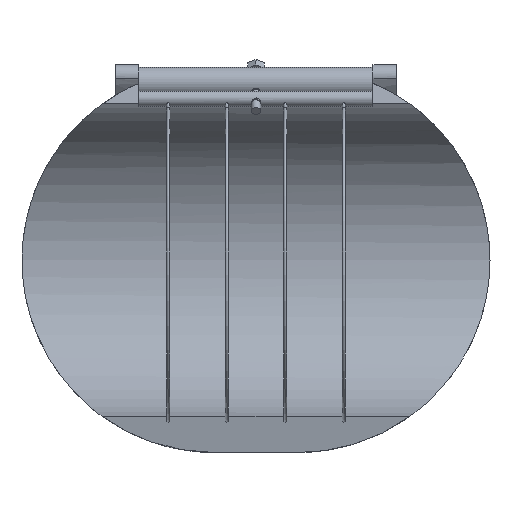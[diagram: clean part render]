
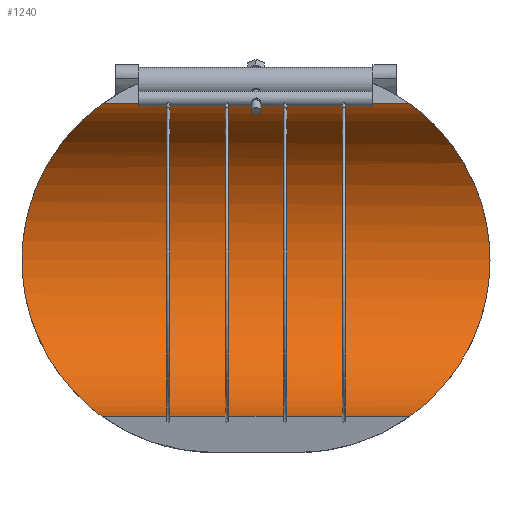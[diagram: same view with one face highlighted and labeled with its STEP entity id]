
A CAD part, front view. The second image highlights one B-rep face of the part: STEP entity #1240.
In plain terms, the highlighted cylindrical face has radius 100 mm (diameter 200 mm), a partial arc.
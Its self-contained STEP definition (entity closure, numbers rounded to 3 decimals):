
#127=FACE_OUTER_BOUND('',#207,.T.);
#207=EDGE_LOOP('',(#1099,#1100,#1101,#1102,#1103,#1104,#1105,#1106,#1107,
#1108));
#258=B_SPLINE_CURVE_WITH_KNOTS('',3,(#2768,#2769,#2770,#2771,#2772,#2773,
#2774,#2775,#2776,#2777,#2778,#2779,#2780,#2781,#2782,#2783,#2784,#2785),
 .UNSPECIFIED.,.F.,.F.,(4,2,2,2,2,2,2,2,4),(34.319,34.624,
36.698,38.771,40.845,42.84,44.835,
46.83,48.825),.UNSPECIFIED.);
#259=B_SPLINE_CURVE_WITH_KNOTS('',3,(#2786,#2787,#2788,#2789,#2790,#2791,
#2792,#2793,#2794,#2795,#2796,#2797,#2798,#2799,#2800,#2801,#2802,#2803),
 .UNSPECIFIED.,.F.,.F.,(4,2,2,2,2,2,2,2,4),(48.825,50.82,
52.815,54.81,56.805,58.879,60.953,
63.027,63.331),.UNSPECIFIED.);
#264=B_SPLINE_CURVE_WITH_KNOTS('',3,(#2915,#2916,#2917,#2918,#2919,#2920,
#2921,#2922,#2923,#2924,#2925,#2926,#2927,#2928,#2929,#2930,#2931,#2932),
 .UNSPECIFIED.,.F.,.F.,(4,2,2,2,2,2,2,2,4),(1.769,2.074,
4.147,6.221,8.295,10.29,12.285,
14.28,16.275),.UNSPECIFIED.);
#265=B_SPLINE_CURVE_WITH_KNOTS('',3,(#2934,#2935,#2936,#2937,#2938,#2939,
#2940,#2941,#2942,#2943,#2944,#2945,#2946,#2947,#2948,#2949,#2950,#2951),
 .UNSPECIFIED.,.F.,.F.,(4,2,2,2,2,2,2,2,4),(16.275,18.27,
20.265,22.26,24.255,26.329,28.403,
30.476,30.781),.UNSPECIFIED.);
#351=LINE('',#2059,#412);
#352=LINE('',#2062,#413);
#353=LINE('',#2065,#414);
#354=LINE('',#2067,#415);
#355=LINE('',#2068,#416);
#399=LINE('',#2993,#460);
#412=VECTOR('',#1456,10.);
#413=VECTOR('',#1459,10.);
#414=VECTOR('',#1462,10.);
#415=VECTOR('',#1465,10.);
#416=VECTOR('',#1466,10.);
#460=VECTOR('',#1714,10.);
#487=VERTEX_POINT('',#2047);
#489=VERTEX_POINT('',#2052);
#491=VERTEX_POINT('',#2056);
#492=VERTEX_POINT('',#2058);
#493=VERTEX_POINT('',#2061);
#494=VERTEX_POINT('',#2064);
#570=VERTEX_POINT('',#2765);
#571=VERTEX_POINT('',#2767);
#576=VERTEX_POINT('',#2914);
#577=VERTEX_POINT('',#2933);
#623=EDGE_CURVE('',#492,#491,#351,.T.);
#625=EDGE_CURVE('',#493,#492,#352,.T.);
#627=EDGE_CURVE('',#494,#493,#353,.T.);
#629=EDGE_CURVE('',#487,#494,#354,.T.);
#630=EDGE_CURVE('',#489,#487,#355,.T.);
#752=EDGE_CURVE('',#570,#571,#258,.T.);
#753=EDGE_CURVE('',#571,#491,#259,.T.);
#758=EDGE_CURVE('',#489,#576,#264,.T.);
#759=EDGE_CURVE('',#576,#577,#265,.T.);
#763=EDGE_CURVE('',#570,#577,#399,.T.);
#1099=ORIENTED_EDGE('',*,*,#758,.F.);
#1100=ORIENTED_EDGE('',*,*,#630,.T.);
#1101=ORIENTED_EDGE('',*,*,#629,.T.);
#1102=ORIENTED_EDGE('',*,*,#627,.T.);
#1103=ORIENTED_EDGE('',*,*,#625,.T.);
#1104=ORIENTED_EDGE('',*,*,#623,.T.);
#1105=ORIENTED_EDGE('',*,*,#753,.F.);
#1106=ORIENTED_EDGE('',*,*,#752,.F.);
#1107=ORIENTED_EDGE('',*,*,#763,.T.);
#1108=ORIENTED_EDGE('',*,*,#759,.F.);
#1181=CYLINDRICAL_SURFACE('',#1391,100.);
#1240=ADVANCED_FACE('',(#127),#1181,.F.);
#1391=AXIS2_PLACEMENT_3D('',#2992,#1712,#1713);
#1456=DIRECTION('',(1.,0.,0.));
#1459=DIRECTION('',(1.,0.,0.));
#1462=DIRECTION('',(1.,0.,0.));
#1465=DIRECTION('',(1.,0.,0.));
#1466=DIRECTION('',(1.,0.,0.));
#1712=DIRECTION('center_axis',(1.,0.,0.));
#1713=DIRECTION('ref_axis',(0.,1.,0.));
#1714=DIRECTION('',(-1.,0.,0.));
#2047=CARTESIAN_POINT('',(-55.313,17.365,-98.481));
#2052=CARTESIAN_POINT('',(-96.968,17.365,-98.481));
#2056=CARTESIAN_POINT('',(96.968,17.365,-98.481));
#2058=CARTESIAN_POINT('',(55.313,17.365,-98.481));
#2059=CARTESIAN_POINT('',(0.,17.365,-98.481));
#2061=CARTESIAN_POINT('',(18.438,17.365,-98.481));
#2062=CARTESIAN_POINT('',(0.,17.365,-98.481));
#2064=CARTESIAN_POINT('',(-18.438,17.365,-98.481));
#2065=CARTESIAN_POINT('',(0.,17.365,-98.481));
#2067=CARTESIAN_POINT('',(0.,17.365,-98.481));
#2068=CARTESIAN_POINT('',(0.,17.365,-98.481));
#2765=CARTESIAN_POINT('',(96.968,17.365,98.481));
#2767=CARTESIAN_POINT('',(147.5,100.,0.));
#2768=CARTESIAN_POINT('Ctrl Pts',(96.968,17.365,98.481));
#2769=CARTESIAN_POINT('Ctrl Pts',(97.207,18.337,98.309));
#2770=CARTESIAN_POINT('Ctrl Pts',(97.464,19.305,98.124));
#2771=CARTESIAN_POINT('Ctrl Pts',(99.597,26.828,96.567));
#2772=CARTESIAN_POINT('Ctrl Pts',(102.223,33.158,94.569));
#2773=CARTESIAN_POINT('Ctrl Pts',(108.192,45.186,89.448));
#2774=CARTESIAN_POINT('Ctrl Pts',(111.532,50.889,86.32));
#2775=CARTESIAN_POINT('Ctrl Pts',(118.243,61.474,79.132));
#2776=CARTESIAN_POINT('Ctrl Pts',(121.612,66.352,75.069));
#2777=CARTESIAN_POINT('Ctrl Pts',(127.753,74.903,66.518));
#2778=CARTESIAN_POINT('Ctrl Pts',(130.77,78.923,61.741));
#2779=CARTESIAN_POINT('Ctrl Pts',(136.325,86.143,51.188));
#2780=CARTESIAN_POINT('Ctrl Pts',(138.86,89.344,45.41));
#2781=CARTESIAN_POINT('Ctrl Pts',(143.056,94.577,33.161));
#2782=CARTESIAN_POINT('Ctrl Pts',(144.72,96.614,26.675));
#2783=CARTESIAN_POINT('Ctrl Pts',(146.942,99.326,13.42));
#2784=CARTESIAN_POINT('Ctrl Pts',(147.5,100.,6.65));
#2785=CARTESIAN_POINT('Ctrl Pts',(147.5,100.,0.));
#2786=CARTESIAN_POINT('Ctrl Pts',(147.5,100.,0.));
#2787=CARTESIAN_POINT('Ctrl Pts',(147.5,100.,-6.65));
#2788=CARTESIAN_POINT('Ctrl Pts',(146.942,99.326,-13.42));
#2789=CARTESIAN_POINT('Ctrl Pts',(144.72,96.614,-26.675));
#2790=CARTESIAN_POINT('Ctrl Pts',(143.056,94.577,-33.161));
#2791=CARTESIAN_POINT('Ctrl Pts',(138.86,89.344,-45.41));
#2792=CARTESIAN_POINT('Ctrl Pts',(136.325,86.143,-51.188));
#2793=CARTESIAN_POINT('Ctrl Pts',(130.77,78.923,-61.741));
#2794=CARTESIAN_POINT('Ctrl Pts',(127.753,74.903,-66.518));
#2795=CARTESIAN_POINT('Ctrl Pts',(121.612,66.352,-75.069));
#2796=CARTESIAN_POINT('Ctrl Pts',(118.243,61.474,-79.132));
#2797=CARTESIAN_POINT('Ctrl Pts',(111.532,50.889,-86.32));
#2798=CARTESIAN_POINT('Ctrl Pts',(108.192,45.186,-89.448));
#2799=CARTESIAN_POINT('Ctrl Pts',(102.223,33.158,-94.569));
#2800=CARTESIAN_POINT('Ctrl Pts',(99.597,26.828,-96.567));
#2801=CARTESIAN_POINT('Ctrl Pts',(97.464,19.305,-98.124));
#2802=CARTESIAN_POINT('Ctrl Pts',(97.207,18.337,-98.309));
#2803=CARTESIAN_POINT('Ctrl Pts',(96.968,17.365,-98.481));
#2914=CARTESIAN_POINT('',(-147.5,100.,0.));
#2915=CARTESIAN_POINT('Ctrl Pts',(-96.968,17.365,-98.481));
#2916=CARTESIAN_POINT('Ctrl Pts',(-97.207,18.337,-98.309));
#2917=CARTESIAN_POINT('Ctrl Pts',(-97.464,19.305,-98.124));
#2918=CARTESIAN_POINT('Ctrl Pts',(-99.597,26.828,-96.567));
#2919=CARTESIAN_POINT('Ctrl Pts',(-102.223,33.158,-94.569));
#2920=CARTESIAN_POINT('Ctrl Pts',(-108.192,45.186,-89.448));
#2921=CARTESIAN_POINT('Ctrl Pts',(-111.532,50.889,-86.32));
#2922=CARTESIAN_POINT('Ctrl Pts',(-118.243,61.474,-79.132));
#2923=CARTESIAN_POINT('Ctrl Pts',(-121.612,66.352,-75.069));
#2924=CARTESIAN_POINT('Ctrl Pts',(-127.753,74.903,-66.518));
#2925=CARTESIAN_POINT('Ctrl Pts',(-130.77,78.923,-61.741));
#2926=CARTESIAN_POINT('Ctrl Pts',(-136.325,86.143,-51.188));
#2927=CARTESIAN_POINT('Ctrl Pts',(-138.86,89.344,-45.41));
#2928=CARTESIAN_POINT('Ctrl Pts',(-143.056,94.577,-33.161));
#2929=CARTESIAN_POINT('Ctrl Pts',(-144.72,96.614,-26.675));
#2930=CARTESIAN_POINT('Ctrl Pts',(-146.942,99.326,-13.42));
#2931=CARTESIAN_POINT('Ctrl Pts',(-147.5,100.,-6.65));
#2932=CARTESIAN_POINT('Ctrl Pts',(-147.5,100.,0.));
#2933=CARTESIAN_POINT('',(-96.968,17.365,98.481));
#2934=CARTESIAN_POINT('Ctrl Pts',(-147.5,100.,0.));
#2935=CARTESIAN_POINT('Ctrl Pts',(-147.5,100.,6.65));
#2936=CARTESIAN_POINT('Ctrl Pts',(-146.942,99.326,13.42));
#2937=CARTESIAN_POINT('Ctrl Pts',(-144.72,96.614,26.675));
#2938=CARTESIAN_POINT('Ctrl Pts',(-143.056,94.577,33.161));
#2939=CARTESIAN_POINT('Ctrl Pts',(-138.86,89.344,45.41));
#2940=CARTESIAN_POINT('Ctrl Pts',(-136.325,86.143,51.188));
#2941=CARTESIAN_POINT('Ctrl Pts',(-130.77,78.923,61.741));
#2942=CARTESIAN_POINT('Ctrl Pts',(-127.753,74.903,66.518));
#2943=CARTESIAN_POINT('Ctrl Pts',(-121.612,66.352,75.069));
#2944=CARTESIAN_POINT('Ctrl Pts',(-118.243,61.474,79.132));
#2945=CARTESIAN_POINT('Ctrl Pts',(-111.532,50.889,86.32));
#2946=CARTESIAN_POINT('Ctrl Pts',(-108.192,45.186,89.448));
#2947=CARTESIAN_POINT('Ctrl Pts',(-102.223,33.158,94.569));
#2948=CARTESIAN_POINT('Ctrl Pts',(-99.597,26.828,96.567));
#2949=CARTESIAN_POINT('Ctrl Pts',(-97.464,19.305,98.124));
#2950=CARTESIAN_POINT('Ctrl Pts',(-97.207,18.337,98.309));
#2951=CARTESIAN_POINT('Ctrl Pts',(-96.968,17.365,98.481));
#2992=CARTESIAN_POINT('Origin',(0.,0.,0.));
#2993=CARTESIAN_POINT('',(0.,17.365,98.481));
